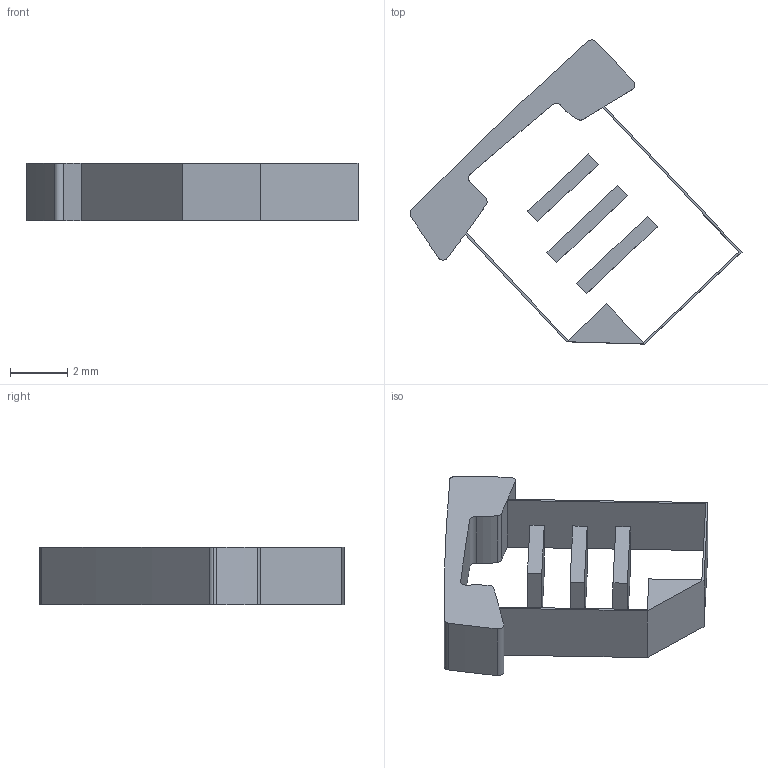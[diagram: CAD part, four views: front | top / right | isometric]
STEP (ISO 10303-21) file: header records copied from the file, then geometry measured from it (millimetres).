
FILE_DESCRIPTION (( 'STEP AP203' ), '1' );
FILE_NAME ('Fax.STEP', '2009-02-16T15:44:34', ( ' ' ), ( ' ' ), 'SwSTEP 2.0', 'SolidWorks 2008', '' );
FILE_SCHEMA (( 'CONFIG_CONTROL_DESIGN' ));
Length unit declared in the file: millimetre
Products named in the file (1): Fax
Bounding box: 11.59 x 10.61 x 2 mm (x, y, z)
Volume: 41.2 mm3; surface area: 213.7 mm2
Topology: 4 solids, 4 shells, 49 faces, 123 edges, 82 vertices
Faces by surface type: plane 31, cylinder 18
Entity records: 1548 total; most frequent: DIRECTION 259, CARTESIAN_POINT 255, ORIENTED_EDGE 246, EDGE_CURVE 123, VECTOR 87, LINE 87, AXIS2_PLACEMENT_3D 86, VERTEX_POINT 82
